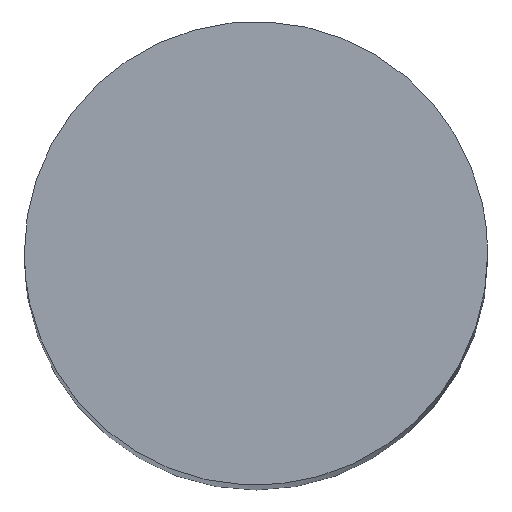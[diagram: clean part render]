
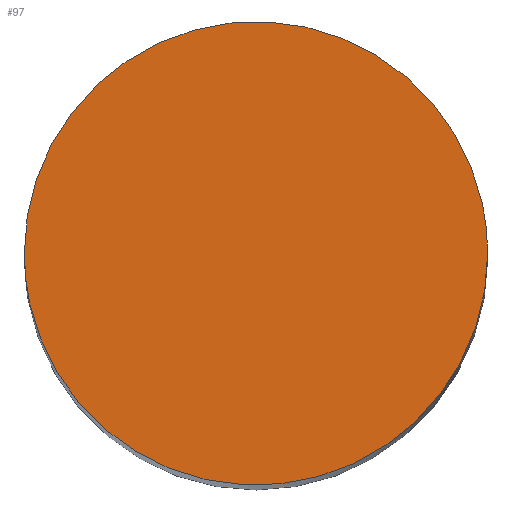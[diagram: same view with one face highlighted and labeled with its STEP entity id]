
A CAD part, top view. The second image highlights one B-rep face of the part: STEP entity #97.
In plain terms, the highlighted planar face has unit normal (0, 0, 1).
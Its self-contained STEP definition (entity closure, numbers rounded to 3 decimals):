
#35=AXIS2_PLACEMENT_3D('Plane Axis2P3D',#32,#33,#34) ;
#32=CARTESIAN_POINT('Axis2P3D Location',(0.,0.,24.5)) ;
#38=CARTESIAN_POINT('Control Point',(-3.925,0.,24.5)) ;
#39=CARTESIAN_POINT('Control Point',(-3.925,0.388,24.5)) ;
#40=CARTESIAN_POINT('Control Point',(-3.877,0.776,24.5)) ;
#41=CARTESIAN_POINT('Control Point',(-3.781,1.157,24.5)) ;
#42=CARTESIAN_POINT('Control Point',(-3.497,1.886,24.5)) ;
#43=CARTESIAN_POINT('Control Point',(-3.044,2.524,24.5)) ;
#44=CARTESIAN_POINT('Control Point',(-2.779,2.813,24.5)) ;
#45=CARTESIAN_POINT('Control Point',(-2.183,3.32,24.5)) ;
#46=CARTESIAN_POINT('Control Point',(-1.481,3.666,24.5)) ;
#47=CARTESIAN_POINT('Control Point',(-1.111,3.795,24.5)) ;
#48=CARTESIAN_POINT('Control Point',(-0.346,3.958,24.5)) ;
#49=CARTESIAN_POINT('Control Point',(0.436,3.93,24.5)) ;
#50=CARTESIAN_POINT('Control Point',(0.823,3.867,24.5)) ;
#51=CARTESIAN_POINT('Control Point',(1.574,3.648,24.5)) ;
#52=CARTESIAN_POINT('Control Point',(2.249,3.252,24.5)) ;
#53=CARTESIAN_POINT('Control Point',(2.56,3.013,24.5)) ;
#54=CARTESIAN_POINT('Control Point',(3.117,2.463,24.5)) ;
#55=CARTESIAN_POINT('Control Point',(3.523,1.795,24.5)) ;
#56=CARTESIAN_POINT('Control Point',(3.684,1.437,24.5)) ;
#57=CARTESIAN_POINT('Control Point',(3.839,0.931,24.5)) ;
#58=CARTESIAN_POINT('Control Point',(3.907,0.41,24.5)) ;
#59=CARTESIAN_POINT('Control Point',(3.919,0.273,24.5)) ;
#60=CARTESIAN_POINT('Control Point',(3.925,0.137,24.5)) ;
#61=CARTESIAN_POINT('Control Point',(3.925,0.,24.5)) ;
#62=CARTESIAN_POINT('Vertex',(3.925,0.,24.5)) ;
#64=CARTESIAN_POINT('Vertex',(-3.925,0.,24.5)) ;
#68=CARTESIAN_POINT('Control Point',(3.925,0.,24.5)) ;
#69=CARTESIAN_POINT('Control Point',(3.925,-0.388,24.5)) ;
#70=CARTESIAN_POINT('Control Point',(3.877,-0.776,24.5)) ;
#71=CARTESIAN_POINT('Control Point',(3.781,-1.157,24.5)) ;
#72=CARTESIAN_POINT('Control Point',(3.497,-1.886,24.5)) ;
#73=CARTESIAN_POINT('Control Point',(3.044,-2.524,24.5)) ;
#74=CARTESIAN_POINT('Control Point',(2.779,-2.813,24.5)) ;
#75=CARTESIAN_POINT('Control Point',(2.183,-3.32,24.5)) ;
#76=CARTESIAN_POINT('Control Point',(1.481,-3.666,24.5)) ;
#77=CARTESIAN_POINT('Control Point',(1.111,-3.795,24.5)) ;
#78=CARTESIAN_POINT('Control Point',(0.346,-3.958,24.5)) ;
#79=CARTESIAN_POINT('Control Point',(-0.436,-3.93,24.5)) ;
#80=CARTESIAN_POINT('Control Point',(-0.823,-3.867,24.5)) ;
#81=CARTESIAN_POINT('Control Point',(-1.574,-3.648,24.5)) ;
#82=CARTESIAN_POINT('Control Point',(-2.249,-3.252,24.5)) ;
#83=CARTESIAN_POINT('Control Point',(-2.56,-3.013,24.5)) ;
#84=CARTESIAN_POINT('Control Point',(-3.117,-2.463,24.5)) ;
#85=CARTESIAN_POINT('Control Point',(-3.523,-1.795,24.5)) ;
#86=CARTESIAN_POINT('Control Point',(-3.684,-1.437,24.5)) ;
#87=CARTESIAN_POINT('Control Point',(-3.839,-0.931,24.5)) ;
#88=CARTESIAN_POINT('Control Point',(-3.907,-0.41,24.5)) ;
#89=CARTESIAN_POINT('Control Point',(-3.919,-0.273,24.5)) ;
#90=CARTESIAN_POINT('Control Point',(-3.925,-0.137,24.5)) ;
#91=CARTESIAN_POINT('Control Point',(-3.925,0.,24.5)) ;
#33=DIRECTION('Axis2P3D Direction',(0.,0.,1.)) ;
#34=DIRECTION('Axis2P3D XDirection',(1.,0.,0.)) ;
#94=ORIENTED_EDGE('',*,*,#66,.T.) ;
#95=ORIENTED_EDGE('',*,*,#92,.T.) ;
#97=ADVANCED_FACE('\X2\96F64EF651E04F554F53\X0\',(#96),#36,.T.) ;
#37=B_SPLINE_CURVE_WITH_KNOTS('',5,(#38,#39,#40,#41,#42,#43,#44,#45,#46,#47,#48,#49,#50,#51,#52,#53,#54,#55,#56,#57,#58,#59,#60,#61),.UNSPECIFIED.,.F.,.U.,(6,3,3,3,3,3,3,6),(0.,2.745,5.49,8.235,10.981,13.726,16.471,17.438),.UNSPECIFIED.) ;
#67=B_SPLINE_CURVE_WITH_KNOTS('',5,(#68,#69,#70,#71,#72,#73,#74,#75,#76,#77,#78,#79,#80,#81,#82,#83,#84,#85,#86,#87,#88,#89,#90,#91),.UNSPECIFIED.,.F.,.U.,(6,3,3,3,3,3,3,6),(0.,2.745,5.49,8.235,10.981,13.726,16.471,17.438),.UNSPECIFIED.) ;
#66=EDGE_CURVE('',#63,#65,#37,.F.) ;
#92=EDGE_CURVE('',#65,#63,#67,.F.) ;
#93=EDGE_LOOP('',(#94,#95)) ;
#96=FACE_OUTER_BOUND('',#93,.T.) ;
#36=PLANE('Plane',#35) ;
#63=VERTEX_POINT('',#62) ;
#65=VERTEX_POINT('',#64) ;
